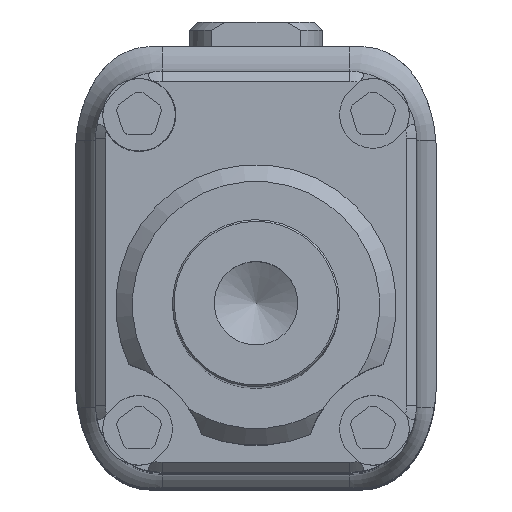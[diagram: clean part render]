
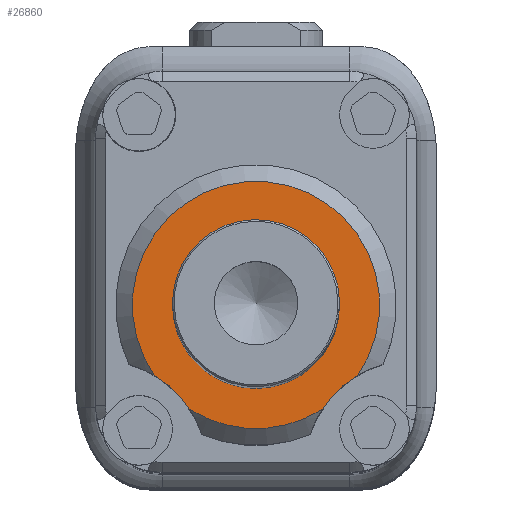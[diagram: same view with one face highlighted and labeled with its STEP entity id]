
A CAD part, top view. The second image highlights one B-rep face of the part: STEP entity #26860.
In plain terms, the highlighted planar face has unit normal (0, 0, 1).
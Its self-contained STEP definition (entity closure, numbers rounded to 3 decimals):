
#389 = PLANE ( 'NONE',  #50663 ) ;
#1736 = ORIENTED_EDGE ( 'NONE', *, *, #16265, .T. ) ;
#3077 = DIRECTION ( 'NONE',  ( 0., 0., 1. ) ) ;
#3999 = CIRCLE ( 'NONE', #9761, 2.5 ) ;
#5956 = CARTESIAN_POINT ( 'NONE',  ( 1.658, -3.284, 74.601 ) ) ;
#7599 = CARTESIAN_POINT ( 'NONE',  ( -0.326, -0.16, 74.601 ) ) ;
#7762 = VERTEX_POINT ( 'NONE', #56923 ) ;
#7933 = DIRECTION ( 'NONE',  ( 1., 0., 0. ) ) ;
#9417 = FACE_OUTER_BOUND ( 'NONE', #17396, .T. ) ;
#9761 = AXIS2_PLACEMENT_3D ( 'NONE', #16911, #21390, #52268 ) ;
#10330 = CIRCLE ( 'NONE', #42862, 3.7 ) ;
#10878 = ORIENTED_EDGE ( 'NONE', *, *, #14629, .F. ) ;
#12140 = DIRECTION ( 'NONE',  ( 0., 0., -1. ) ) ;
#13264 = AXIS2_PLACEMENT_3D ( 'NONE', #57397, #12140, #7933 ) ;
#13357 = CARTESIAN_POINT ( 'NONE',  ( -0.326, -0.16, 74.601 ) ) ;
#14629 = EDGE_CURVE ( 'NONE', #22760, #20011, #46801, .T. ) ;
#15831 = EDGE_CURVE ( 'NONE', #32268, #20011, #10330, .T. ) ;
#16265 = EDGE_CURVE ( 'NONE', #46104, #32268, #17076, .T. ) ;
#16911 = CARTESIAN_POINT ( 'NONE',  ( -0.326, -0.16, 74.601 ) ) ;
#17076 = CIRCLE ( 'NONE', #13264, 3.2 ) ;
#17199 = AXIS2_PLACEMENT_3D ( 'NONE', #17203, #21975, #30951 ) ;
#17203 = CARTESIAN_POINT ( 'NONE',  ( 4.341, -5.027, 74.601 ) ) ;
#17396 = EDGE_LOOP ( 'NONE', ( #1736, #38645, #10878, #37141 ) ) ;
#18709 = CARTESIAN_POINT ( 'NONE',  ( 2.712, -2.273, 74.601 ) ) ;
#20011 = VERTEX_POINT ( 'NONE', #5956 ) ;
#20086 = CARTESIAN_POINT ( 'NONE',  ( -3.363, -2.273, 74.601 ) ) ;
#21390 = DIRECTION ( 'NONE',  ( 0., 0., 1. ) ) ;
#21975 = DIRECTION ( 'NONE',  ( 0., 0., 1. ) ) ;
#22485 = DIRECTION ( 'NONE',  ( 1., 0., 0. ) ) ;
#22760 = VERTEX_POINT ( 'NONE', #18709 ) ;
#24034 = CARTESIAN_POINT ( 'NONE',  ( -2.309, -3.284, 74.601 ) ) ;
#24373 = AXIS2_PLACEMENT_3D ( 'NONE', #7599, #3077, #49245 ) ;
#26695 = CARTESIAN_POINT ( 'NONE',  ( -0.326, -0.16, 74.601 ) ) ;
#26860 = ADVANCED_FACE ( 'NONE', ( #9417, #54684 ), #389, .T. ) ;
#30951 = DIRECTION ( 'NONE',  ( 1., 0., 0. ) ) ;
#32016 = EDGE_CURVE ( 'NONE', #7762, #7762, #3999, .T. ) ;
#32268 = VERTEX_POINT ( 'NONE', #24034 ) ;
#36962 = DIRECTION ( 'NONE',  ( 1., 0., 0. ) ) ;
#37141 = ORIENTED_EDGE ( 'NONE', *, *, #39826, .T. ) ;
#37340 = EDGE_LOOP ( 'NONE', ( #50498 ) ) ;
#37742 = CIRCLE ( 'NONE', #24373, 3.7 ) ;
#38645 = ORIENTED_EDGE ( 'NONE', *, *, #15831, .T. ) ;
#39826 = EDGE_CURVE ( 'NONE', #22760, #46104, #37742, .T. ) ;
#41757 = DIRECTION ( 'NONE',  ( 0., 0., 1. ) ) ;
#42862 = AXIS2_PLACEMENT_3D ( 'NONE', #26695, #59071, #22485 ) ;
#46104 = VERTEX_POINT ( 'NONE', #20086 ) ;
#46801 = CIRCLE ( 'NONE', #17199, 3.2 ) ;
#49245 = DIRECTION ( 'NONE',  ( 1., 0., 0. ) ) ;
#50498 = ORIENTED_EDGE ( 'NONE', *, *, #32016, .F. ) ;
#50663 = AXIS2_PLACEMENT_3D ( 'NONE', #13357, #41757, #36962 ) ;
#52268 = DIRECTION ( 'NONE',  ( 1., 0., 0. ) ) ;
#54684 = FACE_BOUND ( 'NONE', #37340, .T. ) ;
#56923 = CARTESIAN_POINT ( 'NONE',  ( 2.174, -0.16, 74.601 ) ) ;
#57397 = CARTESIAN_POINT ( 'NONE',  ( -4.992, -5.027, 74.601 ) ) ;
#59071 = DIRECTION ( 'NONE',  ( 0., 0., 1. ) ) ;
